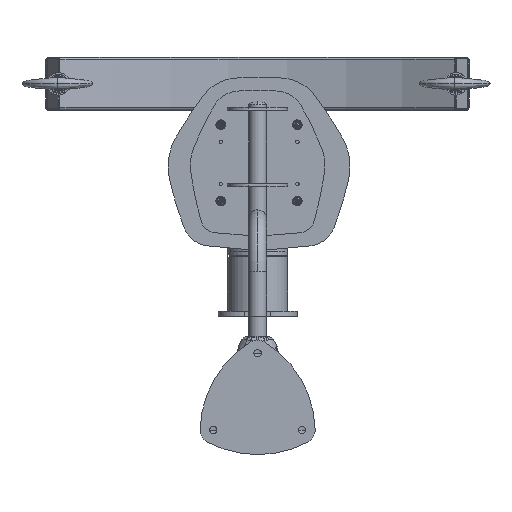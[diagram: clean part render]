
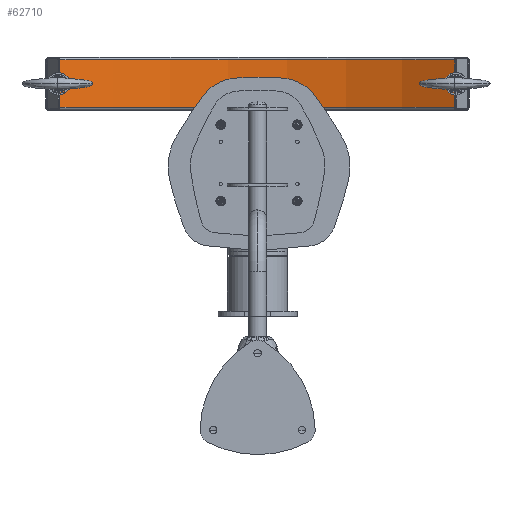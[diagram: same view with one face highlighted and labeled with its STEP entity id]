
A CAD part, front view. The second image highlights one B-rep face of the part: STEP entity #62710.
In plain terms, the highlighted cylindrical face has radius 725 mm (diameter 1450 mm), a partial arc.
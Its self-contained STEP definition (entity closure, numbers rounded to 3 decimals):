
#461 = VERTEX_POINT ( 'NONE', #35979 ) ;
#1065 = CARTESIAN_POINT ( 'NONE',  ( 373.228, 1739.251, 563.1 ) ) ;
#1592 = CIRCLE ( 'NONE', #71104, 725. ) ;
#4153 = LINE ( 'NONE', #65437, #16580 ) ;
#5955 = ORIENTED_EDGE ( 'NONE', *, *, #75869, .T. ) ;
#8868 = FACE_OUTER_BOUND ( 'NONE', #61678, .T. ) ;
#9673 = CARTESIAN_POINT ( 'NONE',  ( -5.475, 1121.021, 391.348 ) ) ;
#11243 = DIRECTION ( 'NONE',  ( -1., 0.008, 0. ) ) ;
#12233 = ORIENTED_EDGE ( 'NONE', *, *, #20552, .T. ) ;
#16237 = DIRECTION ( 'NONE',  ( 0., 0., -1. ) ) ;
#16580 = VECTOR ( 'NONE', #16237, 1000. ) ;
#17658 = CARTESIAN_POINT ( 'NONE',  ( -5.475, 1121.021, 653.1 ) ) ;
#18628 = VERTEX_POINT ( 'NONE', #54006 ) ;
#20552 = EDGE_CURVE ( 'NONE', #18628, #32546, #66645, .T. ) ;
#22563 = DIRECTION ( 'NONE',  ( -1., 0.008, 0. ) ) ;
#25476 = CARTESIAN_POINT ( 'NONE',  ( 373.228, 1739.251, 391.348 ) ) ;
#31942 = AXIS2_PLACEMENT_3D ( 'NONE', #66027, #78148, #72069 ) ;
#32307 = LINE ( 'NONE', #25476, #53190 ) ;
#32546 = VERTEX_POINT ( 'NONE', #1065 ) ;
#34253 = DIRECTION ( 'NONE',  ( 0., 0., -1. ) ) ;
#35979 = CARTESIAN_POINT ( 'NONE',  ( 373.228, 1739.251, 653.1 ) ) ;
#40051 = EDGE_CURVE ( 'NONE', #32546, #461, #32307, .T. ) ;
#40412 = ORIENTED_EDGE ( 'NONE', *, *, #40051, .T. ) ;
#42238 = DIRECTION ( 'NONE',  ( 0., 0., -1. ) ) ;
#46631 = AXIS2_PLACEMENT_3D ( 'NONE', #9673, #34253, #22563 ) ;
#47833 = ORIENTED_EDGE ( 'NONE', *, *, #62817, .F. ) ;
#50029 = DIRECTION ( 'NONE',  ( 0., 0., 1. ) ) ;
#53190 = VECTOR ( 'NONE', #50029, 1000. ) ;
#54006 = CARTESIAN_POINT ( 'NONE',  ( -374.653, 1744.987, 563.1 ) ) ;
#56651 = CARTESIAN_POINT ( 'NONE',  ( -374.653, 1744.987, 653.1 ) ) ;
#59128 = VERTEX_POINT ( 'NONE', #56651 ) ;
#61678 = EDGE_LOOP ( 'NONE', ( #47833, #5955, #12233, #40412 ) ) ;
#62710 = ADVANCED_FACE ( 'NONE', ( #8868 ), #64894, .F. ) ;
#62817 = EDGE_CURVE ( 'NONE', #59128, #461, #1592, .T. ) ;
#64894 = CYLINDRICAL_SURFACE ( 'NONE', #46631, 725. ) ;
#65437 = CARTESIAN_POINT ( 'NONE',  ( -374.653, 1744.987, 391.348 ) ) ;
#66027 = CARTESIAN_POINT ( 'NONE',  ( -5.475, 1121.021, 563.1 ) ) ;
#66645 = CIRCLE ( 'NONE', #31942, 725. ) ;
#71104 = AXIS2_PLACEMENT_3D ( 'NONE', #17658, #42238, #11243 ) ;
#72069 = DIRECTION ( 'NONE',  ( -1., 0.008, 0. ) ) ;
#75869 = EDGE_CURVE ( 'NONE', #59128, #18628, #4153, .T. ) ;
#78148 = DIRECTION ( 'NONE',  ( 0., 0., -1. ) ) ;
